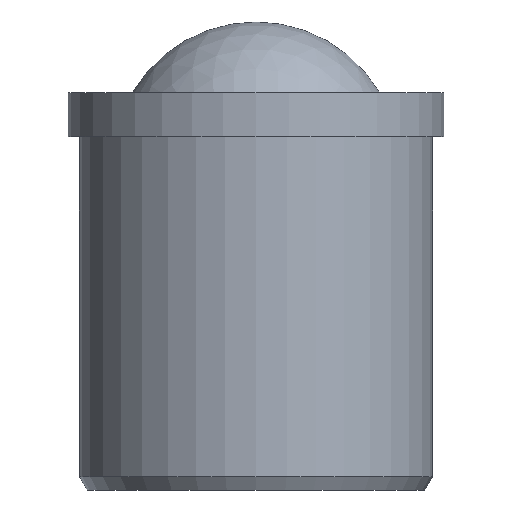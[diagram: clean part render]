
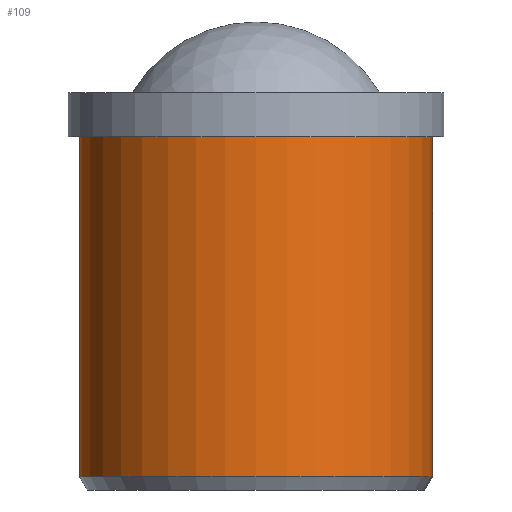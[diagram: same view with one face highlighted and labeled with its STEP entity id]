
A CAD part, front view. The second image highlights one B-rep face of the part: STEP entity #109.
In plain terms, the highlighted cylindrical face has radius 4 mm (diameter 8 mm), a partial arc.
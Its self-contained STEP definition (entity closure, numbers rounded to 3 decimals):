
#2 = AXIS2_PLACEMENT_3D ( 'NONE', #203, #34, #141 ) ;
#17 = CARTESIAN_POINT ( 'NONE',  ( -4., 0., -7.7 ) ) ;
#19 = CARTESIAN_POINT ( 'NONE',  ( 0., 0., 1. ) ) ;
#27 = ORIENTED_EDGE ( 'NONE', *, *, #330, .F. ) ;
#34 = DIRECTION ( 'NONE',  ( 0., 0., 1. ) ) ;
#49 = AXIS2_PLACEMENT_3D ( 'NONE', #62, #91, #147 ) ;
#54 = VERTEX_POINT ( 'NONE', #335 ) ;
#56 = EDGE_CURVE ( 'NONE', #320, #54, #63, .T. ) ;
#57 = VERTEX_POINT ( 'NONE', #256 ) ;
#58 = CIRCLE ( 'NONE', #49, 4. ) ;
#62 = CARTESIAN_POINT ( 'NONE',  ( 0., 0., -7.7 ) ) ;
#63 = LINE ( 'NONE', #254, #241 ) ;
#73 = DIRECTION ( 'NONE',  ( 0., 0., 1. ) ) ;
#91 = DIRECTION ( 'NONE',  ( 0., 0., 1. ) ) ;
#99 = FACE_OUTER_BOUND ( 'NONE', #142, .T. ) ;
#105 = CARTESIAN_POINT ( 'NONE',  ( -4., 0., 1. ) ) ;
#109 = ADVANCED_FACE ( 'NONE', ( #99 ), #127, .T. ) ;
#127 = CYLINDRICAL_SURFACE ( 'NONE', #131, 4. ) ;
#131 = AXIS2_PLACEMENT_3D ( 'NONE', #19, #212, #236 ) ;
#141 = DIRECTION ( 'NONE',  ( -1., 0., 0. ) ) ;
#142 = EDGE_LOOP ( 'NONE', ( #198, #353, #27, #259 ) ) ;
#147 = DIRECTION ( 'NONE',  ( -1., 0., 0. ) ) ;
#158 = VERTEX_POINT ( 'NONE', #17 ) ;
#160 = DIRECTION ( 'NONE',  ( 0., 0., 1. ) ) ;
#198 = ORIENTED_EDGE ( 'NONE', *, *, #246, .T. ) ;
#199 = EDGE_CURVE ( 'NONE', #158, #57, #267, .T. ) ;
#203 = CARTESIAN_POINT ( 'NONE',  ( 0., 0., 0. ) ) ;
#212 = DIRECTION ( 'NONE',  ( 0., 0., 1. ) ) ;
#236 = DIRECTION ( 'NONE',  ( -1., 0., 0. ) ) ;
#241 = VECTOR ( 'NONE', #160, 1000. ) ;
#246 = EDGE_CURVE ( 'NONE', #158, #320, #58, .T. ) ;
#254 = CARTESIAN_POINT ( 'NONE',  ( 4., 0., 1. ) ) ;
#256 = CARTESIAN_POINT ( 'NONE',  ( -4., 0., 0. ) ) ;
#259 = ORIENTED_EDGE ( 'NONE', *, *, #199, .F. ) ;
#267 = LINE ( 'NONE', #105, #333 ) ;
#288 = CARTESIAN_POINT ( 'NONE',  ( 4., 0., -7.7 ) ) ;
#301 = CIRCLE ( 'NONE', #2, 4. ) ;
#320 = VERTEX_POINT ( 'NONE', #288 ) ;
#330 = EDGE_CURVE ( 'NONE', #57, #54, #301, .T. ) ;
#333 = VECTOR ( 'NONE', #73, 1000. ) ;
#335 = CARTESIAN_POINT ( 'NONE',  ( 4., 0., 0. ) ) ;
#353 = ORIENTED_EDGE ( 'NONE', *, *, #56, .T. ) ;
